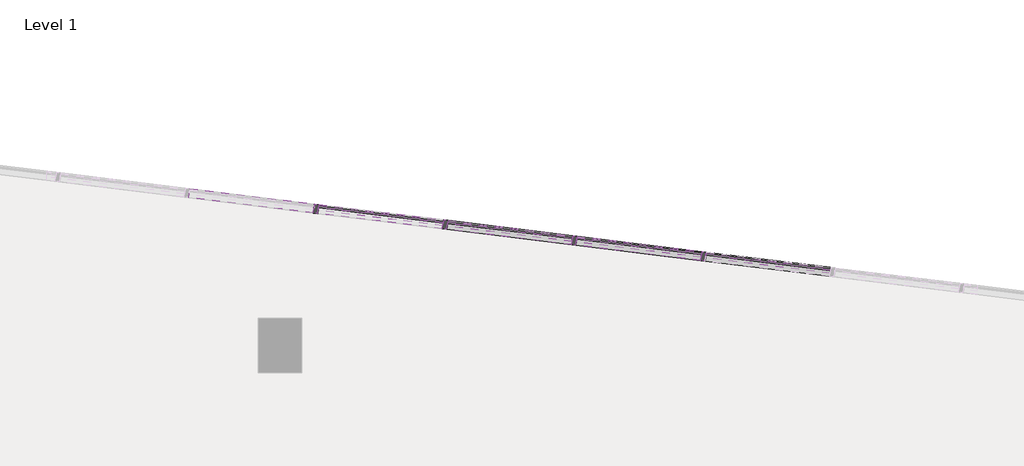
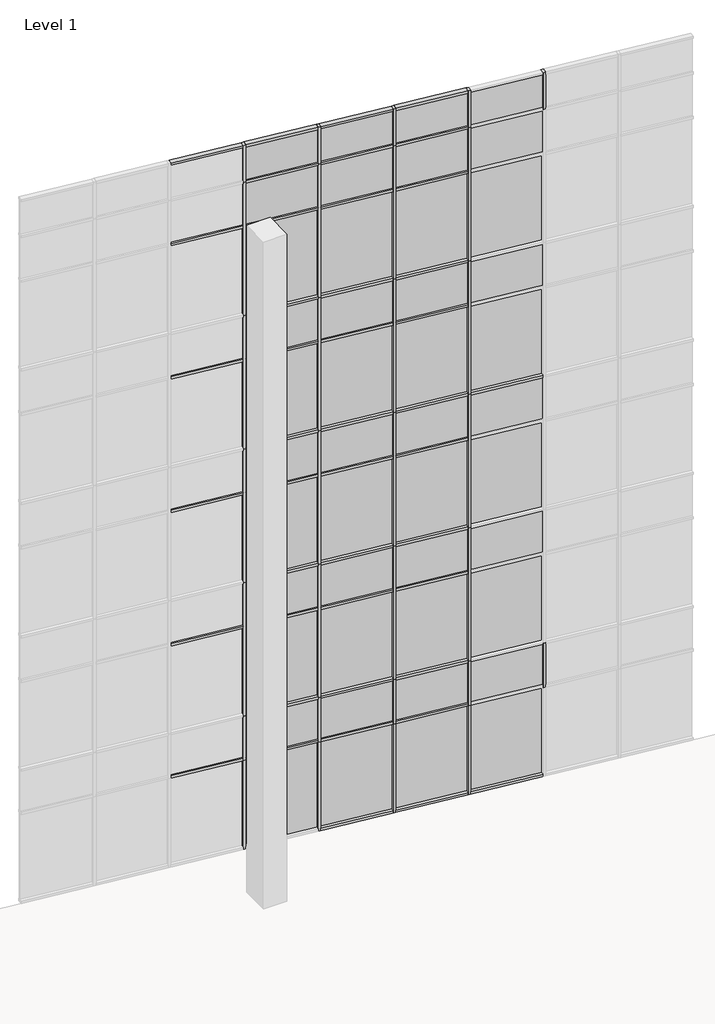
# One storey, part 21 of 23: 73 members, 44 plates.
"""IFC4 building model written with IfcOpenShell, lengths in millimetres."""

from ifc_helpers import new_model, si_unit, origin, place, context, project, spatial, transform, mapped, element, save
from components import member_2b49869a, member_f92b8aa2, member_810865a4, member_f0fea5a5, member_6d5c3e5e, member_9764dd38, system_panel_glazed_14c75400, system_panel_solid_5dfe6f83, system_panel_solid_e25e2004, system_panel_solid_b7551183

model = new_model("IFC4")

# Units and contexts
model_context = context("Model", 3, world=origin())
ifc_project = project(units=[si_unit("LENGTHUNIT", "METRE", prefix="MILLI")], contexts=[model_context])

# Site, building, storey
site = spatial("IfcSite", under=ifc_project)
building = spatial("IfcBuilding", under=site)
storey = spatial("IfcBuildingStorey", under=building, Name="Level 1", Elevation=0.0)

# Members
placement = place(None, origin())
member_shape = member_2b49869a(model_context)
element("IfcMember", 1, ObjectType="Rectangular Mullion : 2.5\" x 5\" rectangular", at=placement, inside=storey, context=model_context, shape_type="MappedRepresentation", body=[
    mapped(member_shape, transform((10636.016062, 10565.4226148, 2438.4), x_axis=(0.9925461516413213, -0.12186934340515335, 0.0), y_axis=(-0.12186934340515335, -0.9925461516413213, 0.0), z_axis=(0.0, 0.0, -1.0))),
])
element("IfcMember", 2, ObjectType="Rectangular Mullion : 2.5\" x 5\" rectangular", at=placement, inside=storey, context=model_context, shape_type="MappedRepresentation", body=[
    mapped(member_shape, transform((8820.8476599, 10788.29727, 2438.4), x_axis=(0.9925461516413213, -0.12186934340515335, 0.0), y_axis=(-0.12186934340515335, -0.9925461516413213, 0.0), z_axis=(0.0, 0.0, -1.0))),
])
element("IfcMember", 3, ObjectType="Rectangular Mullion : 2.5\" x 5\" rectangular", at=placement, inside=storey, context=model_context, shape_type="MappedRepresentation", body=[
    mapped(member_shape, transform((7005.6792577, 11011.1719252, 2438.4), x_axis=(0.9925461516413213, -0.12186934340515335, 0.0), y_axis=(-0.12186934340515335, -0.9925461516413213, 0.0), z_axis=(0.0, 0.0, -1.0))),
])
element("IfcMember", 4, ObjectType="Rectangular Mullion : 2.5\" x 5\" rectangular", at=placement, inside=storey, context=model_context, shape_type="MappedRepresentation", body=[
    mapped(member_shape, transform((5190.5108556, 11234.0465804, 2438.4), x_axis=(0.9925461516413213, -0.12186934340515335, 0.0), y_axis=(-0.12186934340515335, -0.9925461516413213, 0.0), z_axis=(0.0, 0.0, -1.0))),
])
element("IfcMember", 5, ObjectType="Rectangular Mullion : 2.5\" x 5\" rectangular", at=placement, inside=storey, context=model_context, shape_type="MappedRepresentation", body=[
    mapped(member_shape, transform((3375.3424535, 11456.9212356, 2438.4), x_axis=(0.9925461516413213, -0.12186934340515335, 0.0), y_axis=(-0.12186934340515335, -0.9925461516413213, 0.0), z_axis=(0.0, 0.0, -1.0))),
])
member_2_shape = member_f92b8aa2(model_context)
element("IfcMember", 6, ObjectType="Rectangular Mullion : 2.5\" x 5\" rectangular", at=placement, inside=storey, context=model_context, shape_type="MappedRepresentation", body=[
    mapped(member_2_shape, transform((10636.016062, 10565.4226148, 18288.0), x_axis=(0.9925461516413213, -0.12186934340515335, 0.0), y_axis=(-0.12186934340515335, -0.9925461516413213, 0.0), z_axis=(0.0, 0.0, -1.0))),
])
element("IfcMember", 7, ObjectType="Rectangular Mullion : 2.5\" x 5\" rectangular", at=placement, inside=storey, context=model_context, shape_type="MappedRepresentation", body=[
    mapped(member_2_shape, transform((8820.8476599, 10788.29727, 18288.0), x_axis=(0.9925461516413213, -0.12186934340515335, 0.0), y_axis=(-0.12186934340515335, -0.9925461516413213, 0.0), z_axis=(0.0, 0.0, -1.0))),
])
element("IfcMember", 8, ObjectType="Rectangular Mullion : 2.5\" x 5\" rectangular", at=placement, inside=storey, context=model_context, shape_type="MappedRepresentation", body=[
    mapped(member_2_shape, transform((7005.6792577, 11011.1719252, 18288.0), x_axis=(0.9925461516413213, -0.12186934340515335, 0.0), y_axis=(-0.12186934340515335, -0.9925461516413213, 0.0), z_axis=(0.0, 0.0, -1.0))),
])
element("IfcMember", 9, ObjectType="Rectangular Mullion : 2.5\" x 5\" rectangular", at=placement, inside=storey, context=model_context, shape_type="MappedRepresentation", body=[
    mapped(member_2_shape, transform((5190.5108556, 11234.0465804, 18288.0), x_axis=(0.9925461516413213, -0.12186934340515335, 0.0), y_axis=(-0.12186934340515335, -0.9925461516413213, 0.0), z_axis=(0.0, 0.0, -1.0))),
])
element("IfcMember", 10, ObjectType="Rectangular Mullion : 2.5\" x 5\" rectangular", at=placement, inside=storey, context=model_context, shape_type="MappedRepresentation", body=[
    mapped(member_2_shape, transform((3375.3424535, 11456.9212356, 18288.0), x_axis=(0.9925461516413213, -0.12186934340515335, 0.0), y_axis=(-0.12186934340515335, -0.9925461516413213, 0.0), z_axis=(0.0, 0.0, -1.0))),
])
member_3_shape = member_810865a4(model_context)
element("IfcMember", 11, ObjectType="Rectangular Mullion : 2.5\" x 5\" rectangular", at=placement, inside=storey, context=model_context, shape_type="MappedRepresentation", body=[
    mapped(member_3_shape, transform((8820.8476599, 10788.29727, 14630.4), x_axis=(0.9925461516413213, -0.12186934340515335, 0.0), y_axis=(-0.12186934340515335, -0.9925461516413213, 0.0), z_axis=(0.0, 0.0, -1.0))),
])
element("IfcMember", 12, ObjectType="Rectangular Mullion : 2.5\" x 5\" rectangular", at=placement, inside=storey, context=model_context, shape_type="MappedRepresentation", body=[
    mapped(member_3_shape, transform((8820.8476599, 10788.29727, 10972.8), x_axis=(0.9925461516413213, -0.12186934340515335, 0.0), y_axis=(-0.12186934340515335, -0.9925461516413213, 0.0), z_axis=(0.0, 0.0, -1.0))),
])
element("IfcMember", 13, ObjectType="Rectangular Mullion : 2.5\" x 5\" rectangular", at=placement, inside=storey, context=model_context, shape_type="MappedRepresentation", body=[
    mapped(member_3_shape, transform((8820.8476599, 10788.29727, 7315.2), x_axis=(0.9925461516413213, -0.12186934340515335, 0.0), y_axis=(-0.12186934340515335, -0.9925461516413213, 0.0), z_axis=(0.0, 0.0, -1.0))),
])
element("IfcMember", 14, ObjectType="Rectangular Mullion : 2.5\" x 5\" rectangular", at=placement, inside=storey, context=model_context, shape_type="MappedRepresentation", body=[
    mapped(member_3_shape, transform((8820.8476599, 10788.29727, 3657.6), x_axis=(0.9925461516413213, -0.12186934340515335, 0.0), y_axis=(-0.12186934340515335, -0.9925461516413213, 0.0), z_axis=(0.0, 0.0, -1.0))),
])
element("IfcMember", 15, ObjectType="Rectangular Mullion : 2.5\" x 5\" rectangular", at=placement, inside=storey, context=model_context, shape_type="MappedRepresentation", body=[
    mapped(member_3_shape, transform((7005.6792577, 11011.1719252, 14630.4), x_axis=(0.9925461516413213, -0.12186934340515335, 0.0), y_axis=(-0.12186934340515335, -0.9925461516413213, 0.0), z_axis=(0.0, 0.0, -1.0))),
])
element("IfcMember", 16, ObjectType="Rectangular Mullion : 2.5\" x 5\" rectangular", at=placement, inside=storey, context=model_context, shape_type="MappedRepresentation", body=[
    mapped(member_3_shape, transform((7005.6792577, 11011.1719252, 10972.8), x_axis=(0.9925461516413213, -0.12186934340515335, 0.0), y_axis=(-0.12186934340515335, -0.9925461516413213, 0.0), z_axis=(0.0, 0.0, -1.0))),
])
element("IfcMember", 17, ObjectType="Rectangular Mullion : 2.5\" x 5\" rectangular", at=placement, inside=storey, context=model_context, shape_type="MappedRepresentation", body=[
    mapped(member_3_shape, transform((7005.6792577, 11011.1719252, 7315.2), x_axis=(0.9925461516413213, -0.12186934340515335, 0.0), y_axis=(-0.12186934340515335, -0.9925461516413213, 0.0), z_axis=(0.0, 0.0, -1.0))),
])
element("IfcMember", 18, ObjectType="Rectangular Mullion : 2.5\" x 5\" rectangular", at=placement, inside=storey, context=model_context, shape_type="MappedRepresentation", body=[
    mapped(member_3_shape, transform((7005.6792577, 11011.1719252, 3657.6), x_axis=(0.9925461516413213, -0.12186934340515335, 0.0), y_axis=(-0.12186934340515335, -0.9925461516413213, 0.0), z_axis=(0.0, 0.0, -1.0))),
])
element("IfcMember", 19, ObjectType="Rectangular Mullion : 2.5\" x 5\" rectangular", at=placement, inside=storey, context=model_context, shape_type="MappedRepresentation", body=[
    mapped(member_3_shape, transform((5190.5108556, 11234.0465804, 14630.4), x_axis=(0.9925461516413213, -0.12186934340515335, 0.0), y_axis=(-0.12186934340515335, -0.9925461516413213, 0.0), z_axis=(0.0, 0.0, -1.0))),
])
element("IfcMember", 20, ObjectType="Rectangular Mullion : 2.5\" x 5\" rectangular", at=placement, inside=storey, context=model_context, shape_type="MappedRepresentation", body=[
    mapped(member_3_shape, transform((5190.5108556, 11234.0465804, 10972.8), x_axis=(0.9925461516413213, -0.12186934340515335, 0.0), y_axis=(-0.12186934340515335, -0.9925461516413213, 0.0), z_axis=(0.0, 0.0, -1.0))),
])
element("IfcMember", 21, ObjectType="Rectangular Mullion : 2.5\" x 5\" rectangular", at=placement, inside=storey, context=model_context, shape_type="MappedRepresentation", body=[
    mapped(member_3_shape, transform((5190.5108556, 11234.0465804, 7315.2), x_axis=(0.9925461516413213, -0.12186934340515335, 0.0), y_axis=(-0.12186934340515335, -0.9925461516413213, 0.0), z_axis=(0.0, 0.0, -1.0))),
])
element("IfcMember", 22, ObjectType="Rectangular Mullion : 2.5\" x 5\" rectangular", at=placement, inside=storey, context=model_context, shape_type="MappedRepresentation", body=[
    mapped(member_3_shape, transform((5190.5108556, 11234.0465804, 3657.6), x_axis=(0.9925461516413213, -0.12186934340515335, 0.0), y_axis=(-0.12186934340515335, -0.9925461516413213, 0.0), z_axis=(0.0, 0.0, -1.0))),
])
element("IfcMember", 23, ObjectType="Rectangular Mullion : 2.5\" x 5\" rectangular", at=placement, inside=storey, context=model_context, shape_type="MappedRepresentation", body=[
    mapped(member_3_shape, transform((3375.3424535, 11456.9212356, 14630.4), x_axis=(0.9925461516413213, -0.12186934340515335, 0.0), y_axis=(-0.12186934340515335, -0.9925461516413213, 0.0), z_axis=(0.0, 0.0, -1.0))),
])
element("IfcMember", 24, ObjectType="Rectangular Mullion : 2.5\" x 5\" rectangular", at=placement, inside=storey, context=model_context, shape_type="MappedRepresentation", body=[
    mapped(member_3_shape, transform((3375.3424535, 11456.9212356, 10972.8), x_axis=(0.9925461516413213, -0.12186934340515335, 0.0), y_axis=(-0.12186934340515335, -0.9925461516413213, 0.0), z_axis=(0.0, 0.0, -1.0))),
])
element("IfcMember", 25, ObjectType="Rectangular Mullion : 2.5\" x 5\" rectangular", at=placement, inside=storey, context=model_context, shape_type="MappedRepresentation", body=[
    mapped(member_3_shape, transform((3375.3424535, 11456.9212356, 7315.2), x_axis=(0.9925461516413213, -0.12186934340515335, 0.0), y_axis=(-0.12186934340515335, -0.9925461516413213, 0.0), z_axis=(0.0, 0.0, -1.0))),
])
element("IfcMember", 26, ObjectType="Rectangular Mullion : 2.5\" x 5\" rectangular", at=placement, inside=storey, context=model_context, shape_type="MappedRepresentation", body=[
    mapped(member_3_shape, transform((3375.3424535, 11456.9212356, 3657.6), x_axis=(0.9925461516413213, -0.12186934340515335, 0.0), y_axis=(-0.12186934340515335, -0.9925461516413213, 0.0), z_axis=(0.0, 0.0, -1.0))),
])
member_4_shape = member_f0fea5a5(model_context)
element("IfcMember", 27, ObjectType="Rectangular Mullion : 2.5\" x 5\" rectangular", at=placement, inside=storey, context=model_context, shape_type="MappedRepresentation", body=[
    mapped(member_4_shape, transform((8820.8476599, 10788.29727, 0.0), x_axis=(0.9925461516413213, -0.12186934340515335, 0.0), y_axis=(-0.12186934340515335, -0.9925461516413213, 0.0), z_axis=(0.0, 0.0, -1.0))),
])
element("IfcMember", 28, ObjectType="Rectangular Mullion : 2.5\" x 5\" rectangular", at=placement, inside=storey, context=model_context, shape_type="MappedRepresentation", body=[
    mapped(member_4_shape, transform((3375.3424535, 11456.9212356, 0.0), x_axis=(0.9925461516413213, -0.12186934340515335, 0.0), y_axis=(-0.12186934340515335, -0.9925461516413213, 0.0), z_axis=(0.0, 0.0, -1.0))),
])
element("IfcMember", 29, ObjectType="Rectangular Mullion : 2.5\" x 5\" rectangular", at=placement, inside=storey, context=model_context, shape_type="MappedRepresentation", body=[
    mapped(member_4_shape, transform((7005.6792577, 11011.1719252, 0.0), x_axis=(0.9925461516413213, -0.12186934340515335, 0.0), y_axis=(-0.12186934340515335, -0.9925461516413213, 0.0), z_axis=(0.0, 0.0, -1.0))),
])
element("IfcMember", 30, ObjectType="Rectangular Mullion : 2.5\" x 5\" rectangular", at=placement, inside=storey, context=model_context, shape_type="MappedRepresentation", body=[
    mapped(member_4_shape, transform((5190.5108556, 11234.0465804, 0.0), x_axis=(0.9925461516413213, -0.12186934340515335, 0.0), y_axis=(-0.12186934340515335, -0.9925461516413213, 0.0), z_axis=(0.0, 0.0, -1.0))),
])
member_5_shape = member_6d5c3e5e(model_context)
element("IfcMember", 31, ObjectType="Rectangular Mullion : 2.5\" x 5\" rectangular", at=placement, inside=storey, context=model_context, shape_type="MappedRepresentation", body=[
    mapped(member_5_shape, transform((8789.3343195, 10792.1666216, 19304.0), x_axis=(0.0, 0.0, 1.0), y_axis=(-0.12186934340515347, -0.9925461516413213, 0.0), z_axis=(0.9925461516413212, -0.12186934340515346, 0.0))),
])
element("IfcMember", 32, ObjectType="Rectangular Mullion : 2.5\" x 5\" rectangular", at=placement, inside=storey, context=model_context, shape_type="MappedRepresentation", body=[
    mapped(member_5_shape, transform((6974.1659174, 11015.0412769, 19304.0), x_axis=(0.0, 0.0, 1.0), y_axis=(-0.12186934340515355, -0.9925461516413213, 0.0), z_axis=(0.9925461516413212, -0.12186934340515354, 0.0))),
])
element("IfcMember", 33, ObjectType="Rectangular Mullion : 2.5\" x 5\" rectangular", at=placement, inside=storey, context=model_context, shape_type="MappedRepresentation", body=[
    mapped(member_5_shape, transform((5158.9975153, 11237.9159321, 19304.0), x_axis=(0.0, 0.0, 1.0), y_axis=(-0.12186934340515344, -0.9925461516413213, 0.0), z_axis=(0.9925461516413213, -0.12186934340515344, 0.0))),
])
element("IfcMember", 34, ObjectType="Rectangular Mullion : 2.5\" x 5\" rectangular", at=placement, inside=storey, context=model_context, shape_type="MappedRepresentation", body=[
    mapped(member_5_shape, transform((3343.8291132, 11460.7905873, 19304.0), x_axis=(0.0, 0.0, 1.0), y_axis=(-0.12186934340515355, -0.9925461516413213, 0.0), z_axis=(0.9925461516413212, -0.12186934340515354, 0.0))),
])
member_6_shape = member_9764dd38(model_context)
element("IfcMember", 35, ObjectType="Rectangular Mullion : 2.5\" x 5\" rectangular", at=placement, inside=storey, context=model_context, shape_type="MappedRepresentation", body=[
    mapped(member_6_shape, transform((8789.3343195, 10792.1666216, 17068.8), x_axis=(0.0, 0.0, 1.0), y_axis=(-0.12186934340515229, -0.9925461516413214, 0.0), z_axis=(0.9925461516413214, -0.12186934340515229, 0.0))),
])
element("IfcMember", 36, ObjectType="Rectangular Mullion : 2.5\" x 5\" rectangular", at=placement, inside=storey, context=model_context, shape_type="MappedRepresentation", body=[
    mapped(member_6_shape, transform((6974.1659174, 11015.0412769, 17068.8), x_axis=(0.0, 0.0, 1.0), y_axis=(-0.12186934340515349, -0.9925461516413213, 0.0), z_axis=(0.9925461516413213, -0.12186934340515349, 0.0))),
])
element("IfcMember", 37, ObjectType="Rectangular Mullion : 2.5\" x 5\" rectangular", at=placement, inside=storey, context=model_context, shape_type="MappedRepresentation", body=[
    mapped(member_6_shape, transform((5158.9975153, 11237.9159321, 17068.8), x_axis=(0.0, 0.0, 1.0), y_axis=(-0.1218693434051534, -0.9925461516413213, 0.0), z_axis=(0.9925461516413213, -0.1218693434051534, 0.0))),
])
element("IfcMember", 38, ObjectType="Rectangular Mullion : 2.5\" x 5\" rectangular", at=placement, inside=storey, context=model_context, shape_type="MappedRepresentation", body=[
    mapped(member_6_shape, transform((3343.8291132, 11460.7905873, 17068.8), x_axis=(0.0, 0.0, 1.0), y_axis=(-0.1218693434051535, -0.9925461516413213, 0.0), z_axis=(0.9925461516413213, -0.1218693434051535, 0.0))),
])
element("IfcMember", 39, ObjectType="Rectangular Mullion : 2.5\" x 5\" rectangular", at=placement, inside=storey, context=model_context, shape_type="MappedRepresentation", body=[
    mapped(member_6_shape, transform((8789.3343195, 10792.1666216, 13411.2), x_axis=(0.0, 0.0, 1.0), y_axis=(-0.12186934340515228, -0.9925461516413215, 0.0), z_axis=(0.9925461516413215, -0.12186934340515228, 0.0))),
])
element("IfcMember", 40, ObjectType="Rectangular Mullion : 2.5\" x 5\" rectangular", at=placement, inside=storey, context=model_context, shape_type="MappedRepresentation", body=[
    mapped(member_6_shape, transform((6974.1659174, 11015.0412769, 13411.2), x_axis=(0.0, 0.0, 1.0), y_axis=(-0.12186934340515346, -0.9925461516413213, 0.0), z_axis=(0.9925461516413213, -0.12186934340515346, 0.0))),
])
element("IfcMember", 41, ObjectType="Rectangular Mullion : 2.5\" x 5\" rectangular", at=placement, inside=storey, context=model_context, shape_type="MappedRepresentation", body=[
    mapped(member_6_shape, transform((5158.9975153, 11237.9159321, 13411.2), x_axis=(0.0, 0.0, 1.0), y_axis=(-0.1218693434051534, -0.9925461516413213, 0.0), z_axis=(0.9925461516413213, -0.1218693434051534, 0.0))),
])
element("IfcMember", 42, ObjectType="Rectangular Mullion : 2.5\" x 5\" rectangular", at=placement, inside=storey, context=model_context, shape_type="MappedRepresentation", body=[
    mapped(member_6_shape, transform((3343.8291132, 11460.7905873, 13411.2), x_axis=(0.0, 0.0, 1.0), y_axis=(-0.12186934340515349, -0.9925461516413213, 0.0), z_axis=(0.9925461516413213, -0.12186934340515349, 0.0))),
])
element("IfcMember", 43, ObjectType="Rectangular Mullion : 2.5\" x 5\" rectangular", at=placement, inside=storey, context=model_context, shape_type="MappedRepresentation", body=[
    mapped(member_6_shape, transform((8789.3343195, 10792.1666216, 9753.6), x_axis=(0.0, 0.0, 1.0), y_axis=(-0.12186934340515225, -0.9925461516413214, 0.0), z_axis=(0.9925461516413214, -0.12186934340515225, 0.0))),
])
element("IfcMember", 44, ObjectType="Rectangular Mullion : 2.5\" x 5\" rectangular", at=placement, inside=storey, context=model_context, shape_type="MappedRepresentation", body=[
    mapped(member_6_shape, transform((6974.1659174, 11015.0412769, 9753.6), x_axis=(0.0, 0.0, 1.0), y_axis=(-0.12186934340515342, -0.9925461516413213, 0.0), z_axis=(0.9925461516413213, -0.12186934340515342, 0.0))),
])
element("IfcMember", 45, ObjectType="Rectangular Mullion : 2.5\" x 5\" rectangular", at=placement, inside=storey, context=model_context, shape_type="MappedRepresentation", body=[
    mapped(member_6_shape, transform((5158.9975153, 11237.9159321, 9753.6), x_axis=(0.0, 0.0, 1.0), y_axis=(-0.12186934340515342, -0.9925461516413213, 0.0), z_axis=(0.9925461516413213, -0.12186934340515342, 0.0))),
])
element("IfcMember", 46, ObjectType="Rectangular Mullion : 2.5\" x 5\" rectangular", at=placement, inside=storey, context=model_context, shape_type="MappedRepresentation", body=[
    mapped(member_6_shape, transform((3343.8291132, 11460.7905873, 9753.6), x_axis=(0.0, 0.0, 1.0), y_axis=(-0.12186934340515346, -0.9925461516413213, 0.0), z_axis=(0.9925461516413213, -0.12186934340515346, 0.0))),
])
element("IfcMember", 47, ObjectType="Rectangular Mullion : 2.5\" x 5\" rectangular", at=placement, inside=storey, context=model_context, shape_type="MappedRepresentation", body=[
    mapped(member_6_shape, transform((8789.3343195, 10792.1666216, 6096.0), x_axis=(0.0, 0.0, 1.0), y_axis=(-0.12186934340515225, -0.9925461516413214, 0.0), z_axis=(0.9925461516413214, -0.12186934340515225, 0.0))),
])
element("IfcMember", 48, ObjectType="Rectangular Mullion : 2.5\" x 5\" rectangular", at=placement, inside=storey, context=model_context, shape_type="MappedRepresentation", body=[
    mapped(member_6_shape, transform((6974.1659174, 11015.0412769, 6096.0), x_axis=(0.0, 0.0, 1.0), y_axis=(-0.12186934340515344, -0.9925461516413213, 0.0), z_axis=(0.9925461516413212, -0.12186934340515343, 0.0))),
])
element("IfcMember", 49, ObjectType="Rectangular Mullion : 2.5\" x 5\" rectangular", at=placement, inside=storey, context=model_context, shape_type="MappedRepresentation", body=[
    mapped(member_6_shape, transform((5158.9975153, 11237.9159321, 6096.0), x_axis=(0.0, 0.0, 1.0), y_axis=(-0.12186934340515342, -0.9925461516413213, 0.0), z_axis=(0.9925461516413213, -0.12186934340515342, 0.0))),
])
element("IfcMember", 50, ObjectType="Rectangular Mullion : 2.5\" x 5\" rectangular", at=placement, inside=storey, context=model_context, shape_type="MappedRepresentation", body=[
    mapped(member_6_shape, transform((3343.8291132, 11460.7905873, 6096.0), x_axis=(0.0, 0.0, 1.0), y_axis=(-0.12186934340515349, -0.9925461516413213, 0.0), z_axis=(0.9925461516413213, -0.12186934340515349, 0.0))),
])
element("IfcMember", 51, ObjectType="Rectangular Mullion : 2.5\" x 5\" rectangular", at=placement, inside=storey, context=model_context, shape_type="MappedRepresentation", body=[
    mapped(member_6_shape, transform((8789.3343195, 10792.1666216, 2470.15), x_axis=(0.0, 0.0, 1.0), y_axis=(-0.12186934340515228, -0.9925461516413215, 0.0), z_axis=(0.9925461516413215, -0.12186934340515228, 0.0))),
])
element("IfcMember", 52, ObjectType="Rectangular Mullion : 2.5\" x 5\" rectangular", at=placement, inside=storey, context=model_context, shape_type="MappedRepresentation", body=[
    mapped(member_6_shape, transform((6974.1659174, 11015.0412769, 2470.15), x_axis=(0.0, 0.0, 1.0), y_axis=(-0.12186934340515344, -0.9925461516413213, 0.0), z_axis=(0.9925461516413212, -0.12186934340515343, 0.0))),
])
element("IfcMember", 53, ObjectType="Rectangular Mullion : 2.5\" x 5\" rectangular", at=placement, inside=storey, context=model_context, shape_type="MappedRepresentation", body=[
    mapped(member_6_shape, transform((5158.9975153, 11237.9159321, 2470.15), x_axis=(0.0, 0.0, 1.0), y_axis=(-0.12186934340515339, -0.9925461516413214, 0.0), z_axis=(0.9925461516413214, -0.12186934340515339, 0.0))),
])
element("IfcMember", 54, ObjectType="Rectangular Mullion : 2.5\" x 5\" rectangular", at=placement, inside=storey, context=model_context, shape_type="MappedRepresentation", body=[
    mapped(member_6_shape, transform((3343.8291132, 11460.7905873, 2470.15), x_axis=(0.0, 0.0, 1.0), y_axis=(-0.12186934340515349, -0.9925461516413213, 0.0), z_axis=(0.9925461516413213, -0.12186934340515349, 0.0))),
])
element("IfcMember", 55, ObjectType="Rectangular Mullion : 2.5\" x 5\" rectangular", at=placement, inside=storey, context=model_context, shape_type="MappedRepresentation", body=[
    mapped(member_5_shape, transform((8852.3610002, 10784.4279183, 0.0), x_axis=(0.0, 0.0, -1.0), y_axis=(-0.12186934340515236, -0.9925461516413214, 0.0), z_axis=(-0.9925461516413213, 0.12186934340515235, 0.0))),
])
element("IfcMember", 56, ObjectType="Rectangular Mullion : 2.5\" x 5\" rectangular", at=placement, inside=storey, context=model_context, shape_type="MappedRepresentation", body=[
    mapped(member_5_shape, transform((7037.1925981, 11007.3025736, 0.0), x_axis=(0.0, 0.0, -1.0), y_axis=(-0.12186934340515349, -0.9925461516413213, 0.0), z_axis=(-0.9925461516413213, 0.12186934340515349, 0.0))),
])
element("IfcMember", 57, ObjectType="Rectangular Mullion : 2.5\" x 5\" rectangular", at=placement, inside=storey, context=model_context, shape_type="MappedRepresentation", body=[
    mapped(member_5_shape, transform((5222.0241959, 11230.1772288, 0.0), x_axis=(0.0, 0.0, -1.0), y_axis=(-0.12186934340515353, -0.9925461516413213, 0.0), z_axis=(-0.9925461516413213, 0.12186934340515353, 0.0))),
])
element("IfcMember", 58, ObjectType="Rectangular Mullion : 2.5\" x 5\" rectangular", at=placement, inside=storey, context=model_context, shape_type="MappedRepresentation", body=[
    mapped(member_6_shape, transform((6974.1659174, 11015.0412769, 3657.6), x_axis=(0.0, 0.0, 1.0), y_axis=(-0.12186934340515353, -0.9925461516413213, 0.0), z_axis=(0.9925461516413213, -0.12186934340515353, 0.0))),
])
element("IfcMember", 59, ObjectType="Rectangular Mullion : 2.5\" x 5\" rectangular", at=placement, inside=storey, context=model_context, shape_type="MappedRepresentation", body=[
    mapped(member_6_shape, transform((5158.9975153, 11237.9159321, 3657.6), x_axis=(0.0, 0.0, 1.0), y_axis=(-0.12186934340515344, -0.9925461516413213, 0.0), z_axis=(0.9925461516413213, -0.12186934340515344, 0.0))),
])
element("IfcMember", 60, ObjectType="Rectangular Mullion : 2.5\" x 5\" rectangular", at=placement, inside=storey, context=model_context, shape_type="MappedRepresentation", body=[
    mapped(member_6_shape, transform((10604.5027217, 10569.2919664, 10972.8), x_axis=(0.0, 0.0, 1.0), y_axis=(-0.12186934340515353, -0.9925461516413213, 0.0), z_axis=(0.9925461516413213, -0.12186934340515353, 0.0))),
])
element("IfcMember", 61, ObjectType="Rectangular Mullion : 2.5\" x 5\" rectangular", at=placement, inside=storey, context=model_context, shape_type="MappedRepresentation", body=[
    mapped(member_6_shape, transform((8789.3343195, 10792.1666216, 10972.8), x_axis=(0.0, 0.0, 1.0), y_axis=(-0.12186934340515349, -0.9925461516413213, 0.0), z_axis=(0.9925461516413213, -0.12186934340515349, 0.0))),
])
element("IfcMember", 62, ObjectType="Rectangular Mullion : 2.5\" x 5\" rectangular", at=placement, inside=storey, context=model_context, shape_type="MappedRepresentation", body=[
    mapped(member_6_shape, transform((6974.1659174, 11015.0412769, 10972.8), x_axis=(0.0, 0.0, 1.0), y_axis=(-0.12186934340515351, -0.9925461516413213, 0.0), z_axis=(0.9925461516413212, -0.1218693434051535, 0.0))),
])
element("IfcMember", 63, ObjectType="Rectangular Mullion : 2.5\" x 5\" rectangular", at=placement, inside=storey, context=model_context, shape_type="MappedRepresentation", body=[
    mapped(member_6_shape, transform((5158.9975153, 11237.9159321, 10972.8), x_axis=(0.0, 0.0, 1.0), y_axis=(-0.12186934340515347, -0.9925461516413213, 0.0), z_axis=(0.9925461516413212, -0.12186934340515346, 0.0))),
])
element("IfcMember", 64, ObjectType="Rectangular Mullion : 2.5\" x 5\" rectangular", at=placement, inside=storey, context=model_context, shape_type="MappedRepresentation", body=[
    mapped(member_6_shape, transform((8789.3343195, 10792.1666216, 3657.6), x_axis=(0.0, 0.0, 1.0), y_axis=(-0.12186934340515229, -0.9925461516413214, 0.0), z_axis=(0.9925461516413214, -0.12186934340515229, 0.0))),
])
element("IfcMember", 65, ObjectType="Rectangular Mullion : 2.5\" x 5\" rectangular", at=placement, inside=storey, context=model_context, shape_type="MappedRepresentation", body=[
    mapped(member_6_shape, transform((8789.3343195, 10792.1666216, 14630.4), x_axis=(0.0, 0.0, 1.0), y_axis=(-0.12186934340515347, -0.9925461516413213, 0.0), z_axis=(0.9925461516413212, -0.12186934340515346, 0.0))),
])
element("IfcMember", 66, ObjectType="Rectangular Mullion : 2.5\" x 5\" rectangular", at=placement, inside=storey, context=model_context, shape_type="MappedRepresentation", body=[
    mapped(member_6_shape, transform((6974.1659174, 11015.0412769, 14630.4), x_axis=(0.0, 0.0, 1.0), y_axis=(-0.12186934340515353, -0.9925461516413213, 0.0), z_axis=(0.9925461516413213, -0.12186934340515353, 0.0))),
])
element("IfcMember", 67, ObjectType="Rectangular Mullion : 2.5\" x 5\" rectangular", at=placement, inside=storey, context=model_context, shape_type="MappedRepresentation", body=[
    mapped(member_6_shape, transform((5158.9975153, 11237.9159321, 14630.4), x_axis=(0.0, 0.0, 1.0), y_axis=(-0.12186934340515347, -0.9925461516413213, 0.0), z_axis=(0.9925461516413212, -0.12186934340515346, 0.0))),
])
element("IfcMember", 68, ObjectType="Rectangular Mullion : 2.5\" x 5\" rectangular", at=placement, inside=storey, context=model_context, shape_type="MappedRepresentation", body=[
    mapped(member_6_shape, transform((8789.3343195, 10792.1666216, 7315.2), x_axis=(0.0, 0.0, 1.0), y_axis=(-0.12186934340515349, -0.9925461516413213, 0.0), z_axis=(0.9925461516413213, -0.12186934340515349, 0.0))),
])
element("IfcMember", 69, ObjectType="Rectangular Mullion : 2.5\" x 5\" rectangular", at=placement, inside=storey, context=model_context, shape_type="MappedRepresentation", body=[
    mapped(member_6_shape, transform((6974.1659174, 11015.0412769, 7315.2), x_axis=(0.0, 0.0, 1.0), y_axis=(-0.12186934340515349, -0.9925461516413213, 0.0), z_axis=(0.9925461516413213, -0.12186934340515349, 0.0))),
])
element("IfcMember", 70, ObjectType="Rectangular Mullion : 2.5\" x 5\" rectangular", at=placement, inside=storey, context=model_context, shape_type="MappedRepresentation", body=[
    mapped(member_6_shape, transform((5158.9975153, 11237.9159321, 7315.2), x_axis=(0.0, 0.0, 1.0), y_axis=(-0.12186934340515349, -0.9925461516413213, 0.0), z_axis=(0.9925461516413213, -0.12186934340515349, 0.0))),
])
element("IfcMember", 71, ObjectType="Rectangular Mullion : 2.5\" x 5\" rectangular", at=placement, inside=storey, context=model_context, shape_type="MappedRepresentation", body=[
    mapped(member_6_shape, transform((8789.3343195, 10792.1666216, 18288.0), x_axis=(0.0, 0.0, 1.0), y_axis=(-0.12186934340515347, -0.9925461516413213, 0.0), z_axis=(0.9925461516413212, -0.12186934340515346, 0.0))),
])
element("IfcMember", 72, ObjectType="Rectangular Mullion : 2.5\" x 5\" rectangular", at=placement, inside=storey, context=model_context, shape_type="MappedRepresentation", body=[
    mapped(member_6_shape, transform((6974.1659174, 11015.0412769, 18288.0), x_axis=(0.0, 0.0, 1.0), y_axis=(-0.12186934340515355, -0.9925461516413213, 0.0), z_axis=(0.9925461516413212, -0.12186934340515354, 0.0))),
])
element("IfcMember", 73, ObjectType="Rectangular Mullion : 2.5\" x 5\" rectangular", at=placement, inside=storey, context=model_context, shape_type="MappedRepresentation", body=[
    mapped(member_6_shape, transform((5158.9975153, 11237.9159321, 18288.0), x_axis=(0.0, 0.0, 1.0), y_axis=(-0.12186934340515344, -0.9925461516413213, 0.0), z_axis=(0.9925461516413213, -0.12186934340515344, 0.0))),
])

# Plates
system_panel_glazed_shape = system_panel_glazed_14c75400(model_context)
element("IfcPlate", 74, ObjectType="System Panel : Glazed", at=placement, inside=storey, context=model_context, shape_type="MappedRepresentation", body=[
    mapped(system_panel_glazed_shape, transform((9728.4318609, 10676.8599424, 14662.15), x_axis=(0.9925461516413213, -0.12186934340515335, 0.0), y_axis=(0.12186934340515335, 0.9925461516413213, 0.0), z_axis=(0.0, 0.0, 1.0))),
])
element("IfcPlate", 75, ObjectType="System Panel : Glazed", at=placement, inside=storey, context=model_context, shape_type="MappedRepresentation", body=[
    mapped(system_panel_glazed_shape, transform((7913.2634588, 10899.7345976, 14662.15), x_axis=(0.9925461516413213, -0.12186934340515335, 0.0), y_axis=(0.12186934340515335, 0.9925461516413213, 0.0), z_axis=(0.0, 0.0, 1.0))),
])
element("IfcPlate", 76, ObjectType="System Panel : Glazed", at=placement, inside=storey, context=model_context, shape_type="MappedRepresentation", body=[
    mapped(system_panel_glazed_shape, transform((6098.0950567, 11122.6092528, 14662.15), x_axis=(0.9925461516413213, -0.12186934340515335, 0.0), y_axis=(0.12186934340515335, 0.9925461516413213, 0.0), z_axis=(0.0, 0.0, 1.0))),
])
element("IfcPlate", 77, ObjectType="System Panel : Glazed", at=placement, inside=storey, context=model_context, shape_type="MappedRepresentation", body=[
    mapped(system_panel_glazed_shape, transform((4282.9266546, 11345.483908, 14662.15), x_axis=(0.9925461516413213, -0.12186934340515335, 0.0), y_axis=(0.12186934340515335, 0.9925461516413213, 0.0), z_axis=(0.0, 0.0, 1.0))),
])
element("IfcPlate", 78, ObjectType="System Panel : Glazed", at=placement, inside=storey, context=model_context, shape_type="MappedRepresentation", body=[
    mapped(system_panel_glazed_shape, transform((9728.4318609, 10676.8599424, 11004.55), x_axis=(0.9925461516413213, -0.12186934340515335, 0.0), y_axis=(0.12186934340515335, 0.9925461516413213, 0.0), z_axis=(0.0, 0.0, 1.0))),
])
element("IfcPlate", 79, ObjectType="System Panel : Glazed", at=placement, inside=storey, context=model_context, shape_type="MappedRepresentation", body=[
    mapped(system_panel_glazed_shape, transform((7913.2634588, 10899.7345976, 11004.55), x_axis=(0.9925461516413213, -0.12186934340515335, 0.0), y_axis=(0.12186934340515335, 0.9925461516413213, 0.0), z_axis=(0.0, 0.0, 1.0))),
])
element("IfcPlate", 80, ObjectType="System Panel : Glazed", at=placement, inside=storey, context=model_context, shape_type="MappedRepresentation", body=[
    mapped(system_panel_glazed_shape, transform((6098.0950567, 11122.6092528, 11004.55), x_axis=(0.9925461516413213, -0.12186934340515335, 0.0), y_axis=(0.12186934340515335, 0.9925461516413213, 0.0), z_axis=(0.0, 0.0, 1.0))),
])
element("IfcPlate", 81, ObjectType="System Panel : Glazed", at=placement, inside=storey, context=model_context, shape_type="MappedRepresentation", body=[
    mapped(system_panel_glazed_shape, transform((4282.9266546, 11345.483908, 11004.55), x_axis=(0.9925461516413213, -0.12186934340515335, 0.0), y_axis=(0.12186934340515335, 0.9925461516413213, 0.0), z_axis=(0.0, 0.0, 1.0))),
])
element("IfcPlate", 82, ObjectType="System Panel : Glazed", at=placement, inside=storey, context=model_context, shape_type="MappedRepresentation", body=[
    mapped(system_panel_glazed_shape, transform((9728.4318609, 10676.8599424, 7346.95), x_axis=(0.9925461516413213, -0.12186934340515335, 0.0), y_axis=(0.12186934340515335, 0.9925461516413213, 0.0), z_axis=(0.0, 0.0, 1.0))),
])
element("IfcPlate", 83, ObjectType="System Panel : Glazed", at=placement, inside=storey, context=model_context, shape_type="MappedRepresentation", body=[
    mapped(system_panel_glazed_shape, transform((7913.2634588, 10899.7345976, 7346.95), x_axis=(0.9925461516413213, -0.12186934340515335, 0.0), y_axis=(0.12186934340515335, 0.9925461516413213, 0.0), z_axis=(0.0, 0.0, 1.0))),
])
element("IfcPlate", 84, ObjectType="System Panel : Glazed", at=placement, inside=storey, context=model_context, shape_type="MappedRepresentation", body=[
    mapped(system_panel_glazed_shape, transform((6098.0950567, 11122.6092528, 7346.95), x_axis=(0.9925461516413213, -0.12186934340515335, 0.0), y_axis=(0.12186934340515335, 0.9925461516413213, 0.0), z_axis=(0.0, 0.0, 1.0))),
])
element("IfcPlate", 85, ObjectType="System Panel : Glazed", at=placement, inside=storey, context=model_context, shape_type="MappedRepresentation", body=[
    mapped(system_panel_glazed_shape, transform((4282.9266546, 11345.483908, 7346.95), x_axis=(0.9925461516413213, -0.12186934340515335, 0.0), y_axis=(0.12186934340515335, 0.9925461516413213, 0.0), z_axis=(0.0, 0.0, 1.0))),
])
element("IfcPlate", 86, ObjectType="System Panel : Glazed", at=placement, inside=storey, context=model_context, shape_type="MappedRepresentation", body=[
    mapped(system_panel_glazed_shape, transform((9728.4318609, 10676.8599424, 3689.35), x_axis=(0.9925461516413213, -0.12186934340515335, 0.0), y_axis=(0.12186934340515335, 0.9925461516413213, 0.0), z_axis=(0.0, 0.0, 1.0))),
])
element("IfcPlate", 87, ObjectType="System Panel : Glazed", at=placement, inside=storey, context=model_context, shape_type="MappedRepresentation", body=[
    mapped(system_panel_glazed_shape, transform((7913.2634588, 10899.7345976, 3689.35), x_axis=(0.9925461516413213, -0.12186934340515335, 0.0), y_axis=(0.12186934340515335, 0.9925461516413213, 0.0), z_axis=(0.0, 0.0, 1.0))),
])
element("IfcPlate", 88, ObjectType="System Panel : Glazed", at=placement, inside=storey, context=model_context, shape_type="MappedRepresentation", body=[
    mapped(system_panel_glazed_shape, transform((6098.0950567, 11122.6092528, 3689.35), x_axis=(0.9925461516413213, -0.12186934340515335, 0.0), y_axis=(0.12186934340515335, 0.9925461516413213, 0.0), z_axis=(0.0, 0.0, 1.0))),
])
element("IfcPlate", 89, ObjectType="System Panel : Glazed", at=placement, inside=storey, context=model_context, shape_type="MappedRepresentation", body=[
    mapped(system_panel_glazed_shape, transform((4282.9266546, 11345.483908, 3689.35), x_axis=(0.9925461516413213, -0.12186934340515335, 0.0), y_axis=(0.12186934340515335, 0.9925461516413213, 0.0), z_axis=(0.0, 0.0, 1.0))),
])
element("IfcPlate", 90, ObjectType="System Panel : Glazed", at=placement, inside=storey, context=model_context, shape_type="MappedRepresentation", body=[
    mapped(system_panel_glazed_shape, transform((9728.4318609, 10676.8599424, 63.5), x_axis=(0.9925461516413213, -0.12186934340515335, 0.0), y_axis=(0.12186934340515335, 0.9925461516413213, 0.0), z_axis=(0.0, 0.0, 1.0))),
])
element("IfcPlate", 91, ObjectType="System Panel : Glazed", at=placement, inside=storey, context=model_context, shape_type="MappedRepresentation", body=[
    mapped(system_panel_glazed_shape, transform((7913.2634588, 10899.7345976, 63.5), x_axis=(0.9925461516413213, -0.12186934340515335, 0.0), y_axis=(0.12186934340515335, 0.9925461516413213, 0.0), z_axis=(0.0, 0.0, 1.0))),
])
element("IfcPlate", 92, ObjectType="System Panel : Glazed", at=placement, inside=storey, context=model_context, shape_type="MappedRepresentation", body=[
    mapped(system_panel_glazed_shape, transform((6098.0950567, 11122.6092528, 63.5), x_axis=(0.9925461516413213, -0.12186934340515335, 0.0), y_axis=(0.12186934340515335, 0.9925461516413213, 0.0), z_axis=(0.0, 0.0, 1.0))),
])
element("IfcPlate", 93, ObjectType="System Panel : Glazed", at=placement, inside=storey, context=model_context, shape_type="MappedRepresentation", body=[
    mapped(system_panel_glazed_shape, transform((4282.9266546, 11345.483908, 63.5), x_axis=(0.9925461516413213, -0.12186934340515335, 0.0), y_axis=(0.12186934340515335, 0.9925461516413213, 0.0), z_axis=(0.0, 0.0, 1.0))),
])
system_panel_solid_shape = system_panel_solid_5dfe6f83(model_context)
element("IfcPlate", 94, ObjectType="System Panel : Solid", at=placement, inside=storey, context=model_context, shape_type="MappedRepresentation", body=[
    mapped(system_panel_solid_shape, transform((4282.9266546, 11345.483908, 18319.75), x_axis=(0.9925461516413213, -0.12186934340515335, 0.0), y_axis=(0.12186934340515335, 0.9925461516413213, 0.0), z_axis=(0.0, 0.0, 1.0))),
])
element("IfcPlate", 95, ObjectType="System Panel : Solid", at=placement, inside=storey, context=model_context, shape_type="MappedRepresentation", body=[
    mapped(system_panel_solid_shape, transform((6098.0950567, 11122.6092528, 18319.75), x_axis=(0.9925461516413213, -0.12186934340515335, 0.0), y_axis=(0.12186934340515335, 0.9925461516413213, 0.0), z_axis=(0.0, 0.0, 1.0))),
])
element("IfcPlate", 96, ObjectType="System Panel : Solid", at=placement, inside=storey, context=model_context, shape_type="MappedRepresentation", body=[
    mapped(system_panel_solid_shape, transform((7913.2634588, 10899.7345976, 18319.75), x_axis=(0.9925461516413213, -0.12186934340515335, 0.0), y_axis=(0.12186934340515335, 0.9925461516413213, 0.0), z_axis=(0.0, 0.0, 1.0))),
])
element("IfcPlate", 97, ObjectType="System Panel : Solid", at=placement, inside=storey, context=model_context, shape_type="MappedRepresentation", body=[
    mapped(system_panel_solid_shape, transform((9728.4318609, 10676.8599424, 18319.75), x_axis=(0.9925461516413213, -0.12186934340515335, 0.0), y_axis=(0.12186934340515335, 0.9925461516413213, 0.0), z_axis=(0.0, 0.0, 1.0))),
])
system_panel_solid_2_shape = system_panel_solid_e25e2004(model_context)
element("IfcPlate", 98, ObjectType="System Panel : Solid", at=placement, inside=storey, context=model_context, shape_type="MappedRepresentation", body=[
    mapped(system_panel_solid_2_shape, transform((9728.4318609, 10676.8599424, 17100.55), x_axis=(0.9925461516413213, -0.12186934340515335, 0.0), y_axis=(0.12186934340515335, 0.9925461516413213, 0.0), z_axis=(0.0, 0.0, 1.0))),
])
element("IfcPlate", 99, ObjectType="System Panel : Solid", at=placement, inside=storey, context=model_context, shape_type="MappedRepresentation", body=[
    mapped(system_panel_solid_2_shape, transform((7913.2634588, 10899.7345976, 17100.55), x_axis=(0.9925461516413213, -0.12186934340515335, 0.0), y_axis=(0.12186934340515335, 0.9925461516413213, 0.0), z_axis=(0.0, 0.0, 1.0))),
])
element("IfcPlate", 100, ObjectType="System Panel : Solid", at=placement, inside=storey, context=model_context, shape_type="MappedRepresentation", body=[
    mapped(system_panel_solid_2_shape, transform((6098.0950567, 11122.6092528, 17100.55), x_axis=(0.9925461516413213, -0.12186934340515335, 0.0), y_axis=(0.12186934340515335, 0.9925461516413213, 0.0), z_axis=(0.0, 0.0, 1.0))),
])
element("IfcPlate", 101, ObjectType="System Panel : Solid", at=placement, inside=storey, context=model_context, shape_type="MappedRepresentation", body=[
    mapped(system_panel_solid_2_shape, transform((4282.9266546, 11345.483908, 17100.55), x_axis=(0.9925461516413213, -0.12186934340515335, 0.0), y_axis=(0.12186934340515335, 0.9925461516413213, 0.0), z_axis=(0.0, 0.0, 1.0))),
])
element("IfcPlate", 102, ObjectType="System Panel : Solid", at=placement, inside=storey, context=model_context, shape_type="MappedRepresentation", body=[
    mapped(system_panel_solid_2_shape, transform((9728.4318609, 10676.8599424, 13442.95), x_axis=(0.9925461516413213, -0.12186934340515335, 0.0), y_axis=(0.12186934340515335, 0.9925461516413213, 0.0), z_axis=(0.0, 0.0, 1.0))),
])
element("IfcPlate", 103, ObjectType="System Panel : Solid", at=placement, inside=storey, context=model_context, shape_type="MappedRepresentation", body=[
    mapped(system_panel_solid_2_shape, transform((7913.2634588, 10899.7345976, 13442.95), x_axis=(0.9925461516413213, -0.12186934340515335, 0.0), y_axis=(0.12186934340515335, 0.9925461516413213, 0.0), z_axis=(0.0, 0.0, 1.0))),
])
element("IfcPlate", 104, ObjectType="System Panel : Solid", at=placement, inside=storey, context=model_context, shape_type="MappedRepresentation", body=[
    mapped(system_panel_solid_2_shape, transform((6098.0950567, 11122.6092528, 13442.95), x_axis=(0.9925461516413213, -0.12186934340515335, 0.0), y_axis=(0.12186934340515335, 0.9925461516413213, 0.0), z_axis=(0.0, 0.0, 1.0))),
])
element("IfcPlate", 105, ObjectType="System Panel : Solid", at=placement, inside=storey, context=model_context, shape_type="MappedRepresentation", body=[
    mapped(system_panel_solid_2_shape, transform((4282.9266546, 11345.483908, 13442.95), x_axis=(0.9925461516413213, -0.12186934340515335, 0.0), y_axis=(0.12186934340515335, 0.9925461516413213, 0.0), z_axis=(0.0, 0.0, 1.0))),
])
element("IfcPlate", 106, ObjectType="System Panel : Solid", at=placement, inside=storey, context=model_context, shape_type="MappedRepresentation", body=[
    mapped(system_panel_solid_2_shape, transform((9728.4318609, 10676.8599424, 9785.35), x_axis=(0.9925461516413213, -0.12186934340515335, 0.0), y_axis=(0.12186934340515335, 0.9925461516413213, 0.0), z_axis=(0.0, 0.0, 1.0))),
])
element("IfcPlate", 107, ObjectType="System Panel : Solid", at=placement, inside=storey, context=model_context, shape_type="MappedRepresentation", body=[
    mapped(system_panel_solid_2_shape, transform((7913.2634588, 10899.7345976, 9785.35), x_axis=(0.9925461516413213, -0.12186934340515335, 0.0), y_axis=(0.12186934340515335, 0.9925461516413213, 0.0), z_axis=(0.0, 0.0, 1.0))),
])
element("IfcPlate", 108, ObjectType="System Panel : Solid", at=placement, inside=storey, context=model_context, shape_type="MappedRepresentation", body=[
    mapped(system_panel_solid_2_shape, transform((6098.0950567, 11122.6092528, 9785.35), x_axis=(0.9925461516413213, -0.12186934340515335, 0.0), y_axis=(0.12186934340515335, 0.9925461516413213, 0.0), z_axis=(0.0, 0.0, 1.0))),
])
element("IfcPlate", 109, ObjectType="System Panel : Solid", at=placement, inside=storey, context=model_context, shape_type="MappedRepresentation", body=[
    mapped(system_panel_solid_2_shape, transform((4282.9266546, 11345.483908, 9785.35), x_axis=(0.9925461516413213, -0.12186934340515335, 0.0), y_axis=(0.12186934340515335, 0.9925461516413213, 0.0), z_axis=(0.0, 0.0, 1.0))),
])
element("IfcPlate", 110, ObjectType="System Panel : Solid", at=placement, inside=storey, context=model_context, shape_type="MappedRepresentation", body=[
    mapped(system_panel_solid_2_shape, transform((9728.4318609, 10676.8599424, 6127.75), x_axis=(0.9925461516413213, -0.12186934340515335, 0.0), y_axis=(0.12186934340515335, 0.9925461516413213, 0.0), z_axis=(0.0, 0.0, 1.0))),
])
element("IfcPlate", 111, ObjectType="System Panel : Solid", at=placement, inside=storey, context=model_context, shape_type="MappedRepresentation", body=[
    mapped(system_panel_solid_2_shape, transform((7913.2634588, 10899.7345976, 6127.75), x_axis=(0.9925461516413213, -0.12186934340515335, 0.0), y_axis=(0.12186934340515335, 0.9925461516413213, 0.0), z_axis=(0.0, 0.0, 1.0))),
])
element("IfcPlate", 112, ObjectType="System Panel : Solid", at=placement, inside=storey, context=model_context, shape_type="MappedRepresentation", body=[
    mapped(system_panel_solid_2_shape, transform((6098.0950567, 11122.6092528, 6127.75), x_axis=(0.9925461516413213, -0.12186934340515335, 0.0), y_axis=(0.12186934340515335, 0.9925461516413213, 0.0), z_axis=(0.0, 0.0, 1.0))),
])
element("IfcPlate", 113, ObjectType="System Panel : Solid", at=placement, inside=storey, context=model_context, shape_type="MappedRepresentation", body=[
    mapped(system_panel_solid_2_shape, transform((4282.9266546, 11345.483908, 6127.75), x_axis=(0.9925461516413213, -0.12186934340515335, 0.0), y_axis=(0.12186934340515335, 0.9925461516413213, 0.0), z_axis=(0.0, 0.0, 1.0))),
])
system_panel_solid_3_shape = system_panel_solid_b7551183(model_context)
element("IfcPlate", 114, ObjectType="System Panel : Solid", at=placement, inside=storey, context=model_context, shape_type="MappedRepresentation", body=[
    mapped(system_panel_solid_3_shape, transform((9728.4318609, 10676.8599424, 2501.9), x_axis=(0.9925461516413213, -0.12186934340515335, 0.0), y_axis=(0.12186934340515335, 0.9925461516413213, 0.0), z_axis=(0.0, 0.0, 1.0))),
])
element("IfcPlate", 115, ObjectType="System Panel : Solid", at=placement, inside=storey, context=model_context, shape_type="MappedRepresentation", body=[
    mapped(system_panel_solid_3_shape, transform((7913.2634588, 10899.7345976, 2501.9), x_axis=(0.9925461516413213, -0.12186934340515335, 0.0), y_axis=(0.12186934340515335, 0.9925461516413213, 0.0), z_axis=(0.0, 0.0, 1.0))),
])
element("IfcPlate", 116, ObjectType="System Panel : Solid", at=placement, inside=storey, context=model_context, shape_type="MappedRepresentation", body=[
    mapped(system_panel_solid_3_shape, transform((6098.0950567, 11122.6092528, 2501.9), x_axis=(0.9925461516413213, -0.12186934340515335, 0.0), y_axis=(0.12186934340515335, 0.9925461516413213, 0.0), z_axis=(0.0, 0.0, 1.0))),
])
element("IfcPlate", 117, ObjectType="System Panel : Solid", at=placement, inside=storey, context=model_context, shape_type="MappedRepresentation", body=[
    mapped(system_panel_solid_3_shape, transform((4282.9266546, 11345.483908, 2501.9), x_axis=(0.9925461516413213, -0.12186934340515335, 0.0), y_axis=(0.12186934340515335, 0.9925461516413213, 0.0), z_axis=(0.0, 0.0, 1.0))),
])

save(model, "model.ifc")
